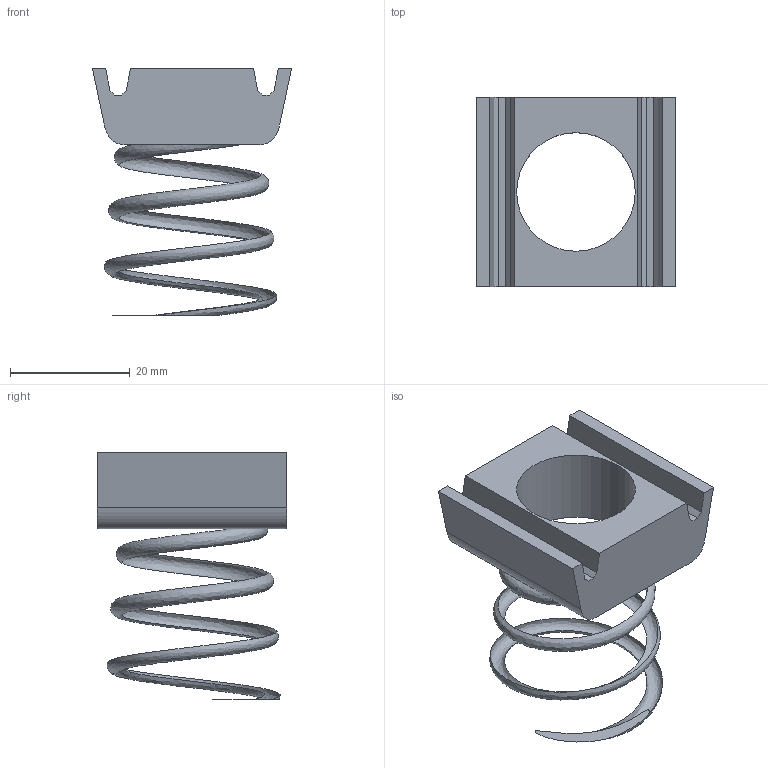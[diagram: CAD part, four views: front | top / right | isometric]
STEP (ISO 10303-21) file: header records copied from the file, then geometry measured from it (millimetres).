
FILE_DESCRIPTION(('TurboCAD Mac Pro'),'Build 980');
FILE_NAME('P1024S.stp',' ',(''),(''),'ACIS Interop','IMSI','TurboCAD Mac Pro BY IMSI, INCORPORATED');
FILE_SCHEMA(('automotive_design'));
Length unit declared in the file: inch
Products named in the file (2): 1; 2
Bounding box: 33.34 x 31.75 x 41.28 mm (x, y, z)
Volume: 7442.4 mm3; surface area: 5136.1 mm2
Topology: 1 solids, 2 shells, 25 faces, 66 edges, 44 vertices
Faces by surface type: plane 20, bspline 3, cylinder 2
Entity records: 3397 total; most frequent: CARTESIAN_POINT 2534, ORIENTED_EDGE 132, DIRECTION 108, EDGE_CURVE 66, LINE 52, VECTOR 52, VERTEX_POINT 44, STYLED_ITEM 28
